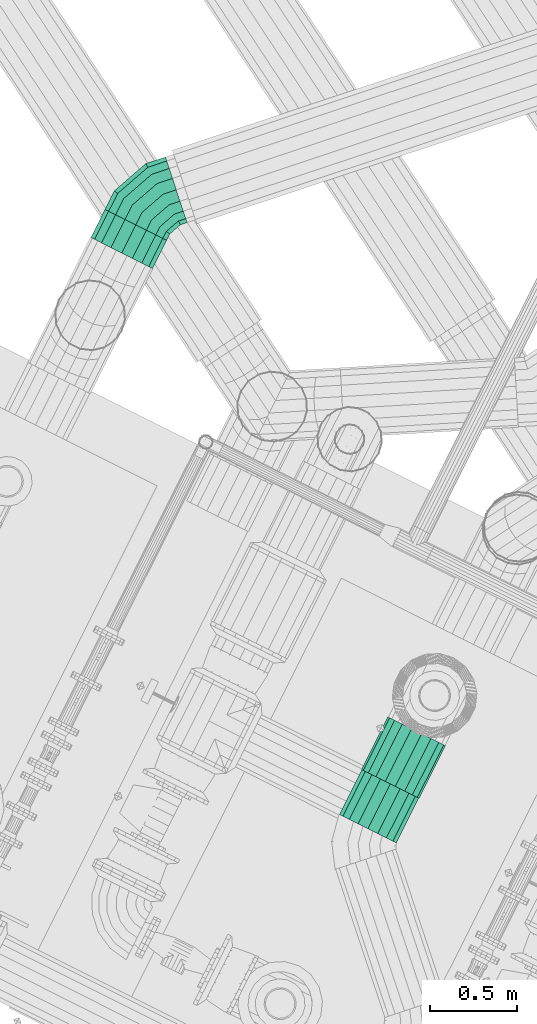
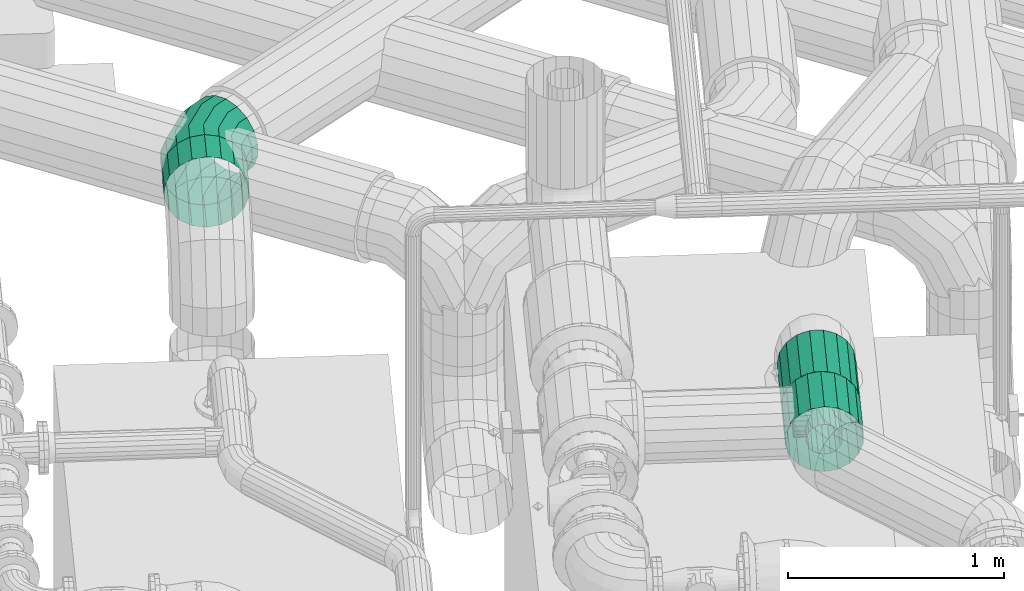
# One storey, part 124 of 206: 2 flow fittings, 2 flow segments.
"""IFC2X3 building model written with IfcOpenShell, lengths in metres."""

from ifc_helpers import new_model, si_unit, derived_unit, direction, frame, origin, place, context, subcontext, project, spatial, face_set, surface_model, source, transform, mapped, material, type_object, type_shapes, element, save


model = new_model("IFC2X3")

# Units and contexts
model_context = context("Model", 3, precision=5.2338327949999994e-05, world=origin(), true_north=direction((0.0, 1.0)))
body_context = subcontext(model_context, "Body", "Model", "MODEL_VIEW")
ifc_project = project(units=[si_unit("LENGTHUNIT", "METRE"), si_unit("AREAUNIT", "SQUARE_METRE"), si_unit("VOLUMEUNIT", "CUBIC_METRE"), si_unit("MASSUNIT", "GRAM", prefix="KILO"), si_unit("PLANEANGLEUNIT", "RADIAN"), derived_unit("THERMALTRANSMITTANCEUNIT", [(si_unit("MASSUNIT", "GRAM", prefix="KILO"), 1), (si_unit("THERMODYNAMICTEMPERATUREUNIT", "KELVIN"), -1), (si_unit("TIMEUNIT", "SECOND"), -3)])], contexts=[model_context])

# Site, building, storey
site_placement = place(None, frame((0.0, 0.0, 0.0), z_axis=(0.0, 0.0, 1.0), x_axis=(0.8939966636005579, -0.4480736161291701, 0.0)))
site = spatial("IfcSite", under=ifc_project, at=site_placement, Name="Default", CompositionType="ELEMENT")
building_placement = place(site_placement, origin())
building = spatial("IfcBuilding", under=site, at=building_placement, CompositionType="ELEMENT")
storey_placement = place(building_placement, origin())
storey = spatial("IfcBuildingStorey", under=building, at=storey_placement, Name="Erdgeschoss", CompositionType="ELEMENT", Elevation=0.0)

# Flow fitting
ifc_material_1 = material(Name="IfcSurfaceStyle #9317")
distribution_element_type_1 = type_object("IfcDistributionElementType", Name="Abzweigstück 317503:Abzweigstück 317503", material=ifc_material_1)
shared_shape_1 = source(origin(), body_context, "Body", "SurfaceModel", [
    surface_model("IfcFaceBasedSurfaceModel", [(24.17482169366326, 6.5159610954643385, 2.4381499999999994), (24.20360268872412, 6.5159610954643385, 2.433075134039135), (24.20360268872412, 6.801961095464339, 2.433075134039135), (24.17482169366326, 6.801961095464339, 2.4381499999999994), (24.228912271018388, 6.5159610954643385, 2.4184626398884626), (24.228912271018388, 6.801961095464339, 2.4184626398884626), (24.247697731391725, 6.5159610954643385, 2.396075), (24.247697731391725, 6.801961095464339, 2.396075), (24.257693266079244, 6.5159610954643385, 2.36861249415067), (24.257693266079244, 6.801961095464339, 2.36861249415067), (24.257693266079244, 6.5159610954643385, 2.339387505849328), (24.257693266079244, 6.801961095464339, 2.339387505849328), (24.247697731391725, 6.5159610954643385, 2.3119250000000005), (24.247697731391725, 6.801961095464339, 2.3119250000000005), (24.228912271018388, 6.5159610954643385, 2.28953736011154), (24.228912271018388, 6.801961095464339, 2.28953736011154), (24.20360268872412, 6.5159610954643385, 2.2749248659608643), (24.20360268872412, 6.801961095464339, 2.2749248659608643), (24.17482169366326, 6.515961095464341, 2.269849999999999), (24.17482169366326, 6.801961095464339, 2.269850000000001), (24.14604069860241, 6.5159610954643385, 2.2749248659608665), (24.14604069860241, 6.801961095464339, 2.2749248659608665), (24.120731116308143, 6.5159610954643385, 2.2895373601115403), (24.120731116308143, 6.801961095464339, 2.2895373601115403), (24.101945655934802, 6.5159610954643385, 2.3119249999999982), (24.101945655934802, 6.801961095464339, 2.3119249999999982), (24.091950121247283, 6.5159610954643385, 2.3393875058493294), (24.091950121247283, 6.801961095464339, 2.3393875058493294), (24.091950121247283, 6.5159610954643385, 2.3686124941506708), (24.091950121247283, 6.801961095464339, 2.3686124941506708), (24.101945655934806, 6.5159610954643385, 2.396075), (24.101945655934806, 6.801961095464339, 2.396075), (24.120731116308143, 6.5159610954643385, 2.4184626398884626), (24.120731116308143, 6.801961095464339, 2.4184626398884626), (24.146040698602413, 6.5159610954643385, 2.433075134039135), (24.146040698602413, 6.801961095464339, 2.433075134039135), (24.17482169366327, 6.5159610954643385, 2.538150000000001), (24.237804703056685, 6.5159610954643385, 2.52704439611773), (24.23780470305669, 6.801961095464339, 2.5270443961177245), (24.17482169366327, 6.801961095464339, 2.5381499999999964), (24.29319103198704, 6.5159610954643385, 2.49506708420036), (24.29319103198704, 6.801961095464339, 2.49506708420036), (24.334300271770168, 6.5159610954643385, 2.446074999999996), (24.334300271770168, 6.801961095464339, 2.446074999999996), (24.356174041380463, 6.5159610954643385, 2.3859773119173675), (24.356174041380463, 6.801961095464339, 2.3859773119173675), (24.356174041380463, 6.5159610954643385, 2.3220226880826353), (24.356174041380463, 6.801961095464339, 2.3220226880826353), (24.334300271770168, 6.5159610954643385, 2.261924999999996), (24.334300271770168, 6.801961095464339, 2.261924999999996), (24.29319103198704, 6.5159610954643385, 2.212932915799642), (24.29319103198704, 6.801961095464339, 2.212932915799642), (24.237804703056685, 6.5159610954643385, 2.1809556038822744), (24.237804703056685, 6.801961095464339, 2.1809556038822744), (24.17482169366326, 6.5159610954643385, 2.1698499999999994), (24.17482169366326, 6.801961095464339, 2.1698499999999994), (24.111838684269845, 6.5159610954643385, 2.1809556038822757), (24.111838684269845, 6.801961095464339, 2.1809556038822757), (24.056452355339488, 6.5159610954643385, 2.212932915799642), (24.056452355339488, 6.801961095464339, 2.212932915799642), (24.015343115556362, 6.5159610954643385, 2.261925), (24.015343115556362, 6.801961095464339, 2.261925), (23.993469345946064, 6.5159610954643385, 2.3220226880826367), (23.993469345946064, 6.801961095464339, 2.3220226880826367), (23.993469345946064, 6.5159610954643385, 2.385977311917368), (23.993469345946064, 6.801961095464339, 2.385977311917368), (24.015343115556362, 6.5159610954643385, 2.446075), (24.015343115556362, 6.801961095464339, 2.446075), (24.05645235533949, 6.5159610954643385, 2.4950670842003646), (24.05645235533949, 6.801961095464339, 2.4950670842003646), (24.11183868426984, 6.5159610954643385, 2.5270443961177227), (24.11183868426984, 6.801961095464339, 2.5270443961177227), (24.090671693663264, 6.728811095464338, 2.3540000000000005), (24.09413411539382, 6.724598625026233, 2.330109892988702), (24.037821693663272, 6.724598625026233, 2.3301098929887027), (24.037821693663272, 6.728811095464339, 2.3540000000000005), (24.103650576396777, 6.7124692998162, 2.3091012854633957), (24.03782169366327, 6.712469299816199, 2.3091012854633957), (24.116324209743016, 6.6938860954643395, 2.2935081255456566), (24.037821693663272, 6.6938860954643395, 2.293508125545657), (24.126351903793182, 6.671090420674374, 2.285211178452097), (24.03782169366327, 6.671090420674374, 2.2852111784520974), (24.126351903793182, 6.646831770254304, 2.285211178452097), (24.03782169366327, 6.646831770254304, 2.2852111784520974), (24.116324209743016, 6.624036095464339, 2.293508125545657), (24.037821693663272, 6.624036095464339, 2.2935081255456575), (24.103650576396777, 6.6054528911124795, 2.3091012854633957), (24.03782169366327, 6.6054528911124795, 2.309101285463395), (24.09413411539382, 6.593323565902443, 2.330109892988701), (24.037821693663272, 6.593323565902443, 2.330109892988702), (24.090671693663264, 6.5891110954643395, 2.3540000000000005), (24.037821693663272, 6.5891110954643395, 2.3540000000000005), (24.09413411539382, 6.593323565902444, 2.3778901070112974), (24.03782169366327, 6.593323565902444, 2.3778901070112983), (24.103650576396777, 6.6054528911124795, 2.398898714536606), (24.03782169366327, 6.6054528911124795, 2.3988987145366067), (24.116324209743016, 6.624036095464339, 2.414491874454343), (24.03782169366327, 6.624036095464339, 2.4144918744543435), (24.126351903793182, 6.646831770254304, 2.422788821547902), (24.03782169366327, 6.646831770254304, 2.422788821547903), (24.126351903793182, 6.671090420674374, 2.4227888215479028), (24.03782169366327, 6.671090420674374, 2.4227888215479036), (24.116324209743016, 6.6938860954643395, 2.4144918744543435), (24.03782169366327, 6.6938860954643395, 2.414491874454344), (24.103650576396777, 6.7124692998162, 2.398898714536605), (24.03782169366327, 6.7124692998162, 2.398898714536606), (24.09413411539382, 6.724598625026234, 2.3778901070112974), (24.03782169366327, 6.724598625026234, 2.3778901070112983)], [face_set([[[0, 1, 2, 3]], [[1, 4, 5, 2]], [[4, 6, 7, 5]], [[6, 8, 9, 7]], [[8, 10, 11, 9]], [[10, 12, 13, 11]], [[12, 14, 15, 13]], [[14, 16, 17, 15]], [[16, 18, 19, 17]], [[18, 20, 21, 19]], [[20, 22, 23, 21]], [[22, 24, 25, 23]], [[24, 26, 27, 25]], [[26, 28, 29, 27]], [[28, 30, 31, 29]], [[30, 32, 33, 31]], [[32, 34, 35, 33]], [[34, 0, 3, 35]], [[36, 37, 38, 39]], [[37, 40, 41, 38]], [[40, 42, 43, 41]], [[42, 44, 45, 43]], [[44, 46, 47, 45]], [[46, 48, 49, 47]], [[48, 50, 51, 49]], [[50, 52, 53, 51]], [[52, 54, 55, 53]], [[54, 56, 57, 55]], [[56, 58, 59, 57]], [[58, 60, 61, 59]], [[60, 62, 63, 61]], [[62, 64, 65, 63]], [[64, 66, 67, 65]], [[66, 68, 69, 67]], [[68, 70, 71, 69]], [[70, 36, 39, 71]], [[72, 73, 74, 75]], [[73, 76, 77, 74]], [[76, 78, 79, 77]], [[78, 80, 81, 79]], [[80, 82, 83, 81]], [[82, 84, 85, 83]], [[84, 86, 87, 85]], [[86, 88, 89, 87]], [[88, 90, 91, 89]], [[90, 92, 93, 91]], [[92, 94, 95, 93]], [[94, 96, 97, 95]], [[96, 98, 99, 97]], [[98, 100, 101, 99]], [[100, 102, 103, 101]], [[102, 104, 105, 103]], [[104, 106, 107, 105]], [[106, 72, 75, 107]]])]),
])
type_shapes(distribution_element_type_1, [shared_shape_1])
flow_fitting_1_placement = place(storey_placement, origin())
element("IfcFlowFitting", 1, at=flow_fitting_1_placement, inside=storey, type_object=distribution_element_type_1, material=ifc_material_1, Name="Abzweigstück", ObjectType="Abzweigstück", context=body_context, shape_type="MappedRepresentation", body=[
    mapped(shared_shape_1, transform((0.0, 0.0, 0.0), scale=1.0)),
])

# Flow segment
distribution_element_type_2 = type_object("IfcDistributionElementType", Name="Stahlrohr nach DIN 2448 317526:Stahlrohr nach DIN 2448 317526", material=ifc_material_1)
shared_shape_2 = source(origin(), body_context, "Body", "SurfaceModel", [
    surface_model("IfcFaceBasedSurfaceModel", [(24.25897169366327, 7.138307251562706, 2.353999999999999), (24.2538968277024, 7.138307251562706, 2.382780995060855), (24.253896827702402, 6.80196109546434, 2.3827809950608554), (24.25897169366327, 6.80196109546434, 2.3540000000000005), (24.23928433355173, 7.138307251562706, 2.4080905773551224), (24.239284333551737, 6.80196109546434, 2.408090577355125), (24.216896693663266, 7.138307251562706, 2.4268760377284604), (24.216896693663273, 6.80196109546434, 2.426876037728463), (24.189434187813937, 7.138307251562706, 2.4368715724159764), (24.18943418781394, 6.80196109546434, 2.436871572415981), (24.160209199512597, 7.138307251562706, 2.4368715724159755), (24.1602091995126, 6.80196109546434, 2.4368715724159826), (24.132746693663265, 7.138307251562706, 2.426876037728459), (24.132746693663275, 6.80196109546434, 2.426876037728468), (24.110359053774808, 7.138307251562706, 2.4080905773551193), (24.110359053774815, 6.80196109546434, 2.408090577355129), (24.09574655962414, 7.138307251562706, 2.382780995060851), (24.095746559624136, 6.80196109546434, 2.3827809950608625), (24.090671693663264, 7.138307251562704, 2.353999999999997), (24.090671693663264, 6.801961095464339, 2.354000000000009), (24.095746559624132, 7.138307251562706, 2.3252190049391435), (24.095746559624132, 6.801961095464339, 2.3252190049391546), (24.110359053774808, 7.138307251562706, 2.2999094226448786), (24.1103590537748, 6.80196109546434, 2.2999094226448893), (24.132746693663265, 7.138307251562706, 2.2811239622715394), (24.13274669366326, 6.80196109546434, 2.281123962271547), (24.160209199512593, 7.138307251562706, 2.271128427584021), (24.160209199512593, 6.80196109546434, 2.2711284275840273), (24.189434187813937, 7.138307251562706, 2.271128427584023), (24.189434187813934, 6.80196109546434, 2.271128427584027), (24.216896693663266, 7.138307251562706, 2.2811239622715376), (24.21689669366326, 6.80196109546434, 2.2811239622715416), (24.23928433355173, 7.138307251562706, 2.299909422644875), (24.239284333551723, 6.80196109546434, 2.2999094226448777), (24.2538968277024, 7.138307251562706, 2.3252190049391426), (24.2538968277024, 6.80196109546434, 2.325219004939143), (24.358971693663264, 7.138307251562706, 2.3539999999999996), (24.347866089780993, 7.138307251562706, 2.4169830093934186), (24.347866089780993, 6.80196109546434, 2.4169830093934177), (24.358971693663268, 6.80196109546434, 2.3539999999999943), (24.315888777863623, 7.138307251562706, 2.4723693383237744), (24.31588877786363, 6.80196109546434, 2.4723693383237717), (24.266896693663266, 7.138307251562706, 2.5134785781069), (24.26689669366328, 6.80196109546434, 2.513478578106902), (24.206799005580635, 7.138307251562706, 2.5353523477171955), (24.206799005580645, 6.80196109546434, 2.535352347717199), (24.142844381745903, 7.138307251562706, 2.5353523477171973), (24.14284438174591, 6.80196109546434, 2.535352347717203), (24.082746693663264, 7.138307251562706, 2.513478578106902), (24.082746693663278, 6.80196109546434, 2.5134785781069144), (24.033754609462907, 7.138307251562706, 2.472369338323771), (24.033754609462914, 6.80196109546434, 2.4723693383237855), (24.00177729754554, 7.138307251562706, 2.4169830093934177), (24.00177729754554, 6.80196109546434, 2.416983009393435), (23.990671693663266, 7.138307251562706, 2.3539999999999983), (23.990671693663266, 6.80196109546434, 2.3540000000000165), (24.001777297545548, 7.138307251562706, 2.291016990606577), (24.001777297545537, 6.80196109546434, 2.2910169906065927), (24.033754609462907, 7.138307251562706, 2.235630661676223), (24.033754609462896, 6.80196109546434, 2.235630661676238), (24.082746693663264, 7.138307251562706, 2.194521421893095), (24.082746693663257, 6.80196109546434, 2.194521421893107), (24.142844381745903, 7.138307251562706, 2.172647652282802), (24.14284438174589, 6.80196109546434, 2.17264765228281), (24.206799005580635, 7.138307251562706, 2.1726476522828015), (24.206799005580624, 6.80196109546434, 2.1726476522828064), (24.266896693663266, 7.138307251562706, 2.1945214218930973), (24.266896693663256, 6.80196109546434, 2.1945214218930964), (24.31588877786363, 7.138307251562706, 2.235630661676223), (24.31588877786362, 6.80196109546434, 2.2356306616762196), (24.34786608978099, 7.138307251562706, 2.2910169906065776), (24.34786608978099, 6.80196109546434, 2.291016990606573)], [face_set([[[0, 1, 2, 3]], [[1, 4, 5, 2]], [[4, 6, 7, 5]], [[6, 8, 9, 7]], [[8, 10, 11, 9]], [[10, 12, 13, 11]], [[12, 14, 15, 13]], [[14, 16, 17, 15]], [[16, 18, 19, 17]], [[18, 20, 21, 19]], [[20, 22, 23, 21]], [[22, 24, 25, 23]], [[24, 26, 27, 25]], [[26, 28, 29, 27]], [[28, 30, 31, 29]], [[30, 32, 33, 31]], [[32, 34, 35, 33]], [[34, 0, 3, 35]], [[36, 37, 38, 39]], [[37, 40, 41, 38]], [[40, 42, 43, 41]], [[42, 44, 45, 43]], [[44, 46, 47, 45]], [[46, 48, 49, 47]], [[48, 50, 51, 49]], [[50, 52, 53, 51]], [[52, 54, 55, 53]], [[54, 56, 57, 55]], [[56, 58, 59, 57]], [[58, 60, 61, 59]], [[60, 62, 63, 61]], [[62, 64, 65, 63]], [[64, 66, 67, 65]], [[66, 68, 69, 67]], [[68, 70, 71, 69]], [[70, 36, 39, 71]]])]),
])
type_shapes(distribution_element_type_2, [shared_shape_2])
flow_segment_1_placement = place(storey_placement, origin())
element("IfcFlowSegment", 2, at=flow_segment_1_placement, inside=storey, type_object=distribution_element_type_2, material=ifc_material_1, Name="Stahlrohr nach DIN 2448", ObjectType="Stahlrohr nach DIN 2448", context=body_context, shape_type="MappedRepresentation", body=[
    mapped(shared_shape_2, transform((0.0, 0.0, 0.0), scale=1.0)),
])

# Flow fitting
ifc_material_2 = material(Name="IfcSurfaceStyle #251447")
distribution_element_type_3 = type_object("IfcDistributionElementType", Name="Segmentbogen 3 teilig 620877:Segmentbogen 3 teilig 620877", material=ifc_material_2)
shared_shape_3 = source(origin(), body_context, "Body", "SurfaceModel", [
    surface_model("IfcFaceBasedSurfaceModel", [(21.44094787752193, 9.00820839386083, 2.4500000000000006), (21.50935190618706, 9.00820839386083, 2.4379385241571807), (21.50935190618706, 9.074166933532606, 2.4379385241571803), (21.44094787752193, 9.087773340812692, 2.4499999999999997), (21.569505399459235, 9.008208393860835, 2.4032088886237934), (21.569505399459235, 9.062201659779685, 2.403208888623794), (21.61415295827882, 9.00820839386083, 2.3499999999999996), (21.614152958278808, 9.053320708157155, 2.3500000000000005), (21.637909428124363, 9.008208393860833, 2.2847296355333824), (21.637909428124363, 9.048595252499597, 2.2847296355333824), (21.637909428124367, 9.008208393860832, 2.215270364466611), (21.637909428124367, 9.048595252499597, 2.215270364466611), (21.61415295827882, 9.00820839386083, 2.149999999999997), (21.614152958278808, 9.053320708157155, 2.1499999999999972), (21.569505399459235, 9.008208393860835, 2.0967911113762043), (21.56950539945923, 9.062201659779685, 2.0967911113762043), (21.50935190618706, 9.00820839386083, 2.0620614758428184), (21.50935190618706, 9.074166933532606, 2.0620614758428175), (21.44094787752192, 9.00820839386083, 2.05), (21.440947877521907, 9.087773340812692, 2.050000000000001), (21.37254384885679, 9.00820839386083, 2.062061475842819), (21.372543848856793, 9.101379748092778, 2.0620614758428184), (21.31239035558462, 9.008208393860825, 2.096791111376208), (21.31239035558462, 9.113345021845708, 2.0967911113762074), (21.26774279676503, 9.008208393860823, 2.1500000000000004), (21.267742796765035, 9.122225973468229, 2.15), (21.243986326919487, 9.00820839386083, 2.2152703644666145), (21.243986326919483, 9.126951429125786, 2.2152703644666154), (21.243986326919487, 9.00820839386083, 2.2847296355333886), (21.243986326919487, 9.126951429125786, 2.284729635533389), (21.267742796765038, 9.008208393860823, 2.35), (21.267742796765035, 9.122225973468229, 2.35), (21.312390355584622, 9.008208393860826, 2.403208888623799), (21.31239035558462, 9.113345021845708, 2.403208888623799), (21.372543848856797, 9.00820839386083, 2.4379385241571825), (21.372543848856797, 9.101379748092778, 2.437938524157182), (21.55983438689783, 9.19604242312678, 2.4379385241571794), (21.501844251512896, 9.234790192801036, 2.4499999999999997), (21.610830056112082, 9.161968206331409, 2.4032088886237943), (21.648680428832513, 9.13667739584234, 2.3499999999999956), (21.668820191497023, 9.123220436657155, 2.284729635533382), (21.66882019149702, 9.123220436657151, 2.2152703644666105), (21.648680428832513, 9.136677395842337, 2.1499999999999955), (21.610830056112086, 9.161968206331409, 2.0967911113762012), (21.559834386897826, 9.19604242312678, 2.062061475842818), (21.501844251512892, 9.234790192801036, 2.0500000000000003), (21.44385411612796, 9.273537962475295, 2.062061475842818), (21.392858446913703, 9.307612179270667, 2.0967911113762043), (21.35500807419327, 9.332902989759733, 2.1500000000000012), (21.33486831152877, 9.346359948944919, 2.2152703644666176), (21.334868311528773, 9.34635994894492, 2.2847296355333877), (21.35500807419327, 9.332902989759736, 2.350000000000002), (21.392858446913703, 9.307612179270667, 2.4032088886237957), (21.443854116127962, 9.273537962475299, 2.4379385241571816), (21.6064741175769, 9.242682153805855, 2.43793852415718), (21.55810516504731, 9.291051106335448, 2.4499999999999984), (21.64900906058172, 9.200147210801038, 2.4032088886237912), (21.680579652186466, 9.168576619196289, 2.3499999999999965), (21.697378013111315, 9.151778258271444, 2.284729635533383), (21.69737801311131, 9.151778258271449, 2.21527036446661), (21.680579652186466, 9.16857661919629, 2.149999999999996), (21.649009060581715, 9.200147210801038, 2.0967911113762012), (21.606474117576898, 9.242682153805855, 2.0620614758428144), (21.5581051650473, 9.291051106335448, 2.049999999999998), (21.509736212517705, 9.339420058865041, 2.0620614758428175), (21.46720126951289, 9.381955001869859, 2.096791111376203), (21.435630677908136, 9.413525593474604, 2.1500000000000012), (21.418832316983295, 9.430323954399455, 2.2152703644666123), (21.41883231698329, 9.430323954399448, 2.284729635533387), (21.435630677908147, 9.413525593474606, 2.3499999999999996), (21.4672012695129, 9.381955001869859, 2.4032088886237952), (21.509736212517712, 9.339420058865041, 2.4379385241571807)], [face_set([[[0, 1, 2, 3]], [[1, 4, 5, 2]], [[4, 6, 7, 5]], [[6, 8, 9, 7]], [[8, 10, 11, 9]], [[10, 12, 13, 11]], [[12, 14, 15, 13]], [[14, 16, 17, 15]], [[16, 18, 19, 17]], [[18, 20, 21, 19]], [[20, 22, 23, 21]], [[22, 24, 25, 23]], [[24, 26, 27, 25]], [[26, 28, 29, 27]], [[28, 30, 31, 29]], [[30, 32, 33, 31]], [[32, 34, 35, 33]], [[34, 0, 3, 35]], [[3, 2, 36, 37]], [[2, 5, 38, 36]], [[5, 7, 39, 38]], [[7, 9, 40, 39]], [[9, 11, 41, 40]], [[11, 13, 42, 41]], [[13, 15, 43, 42]], [[15, 17, 44, 43]], [[17, 19, 45, 44]], [[19, 21, 46, 45]], [[21, 23, 47, 46]], [[23, 25, 48, 47]], [[25, 27, 49, 48]], [[27, 29, 50, 49]], [[29, 31, 51, 50]], [[31, 33, 52, 51]], [[33, 35, 53, 52]], [[35, 3, 37, 53]], [[37, 36, 54, 55]], [[36, 38, 56, 54]], [[38, 39, 57, 56]], [[39, 40, 58, 57]], [[40, 41, 59, 58]], [[41, 42, 60, 59]], [[42, 43, 61, 60]], [[43, 44, 62, 61]], [[44, 45, 63, 62]], [[45, 46, 64, 63]], [[46, 47, 65, 64]], [[47, 48, 66, 65]], [[48, 49, 67, 66]], [[49, 50, 68, 67]], [[50, 51, 69, 68]], [[51, 52, 70, 69]], [[52, 53, 71, 70]], [[53, 37, 55, 71]]])]),
])
type_shapes(distribution_element_type_3, [shared_shape_3])
flow_fitting_2_placement = place(storey_placement, origin())
element("IfcFlowFitting", 3, at=flow_fitting_2_placement, inside=storey, type_object=distribution_element_type_3, material=ifc_material_2, Name="Segmentbogen 3 teilig", ObjectType="Segmentbogen 3 teilig", context=body_context, shape_type="MappedRepresentation", body=[
    mapped(shared_shape_3, transform((0.0, 0.0, 0.0), scale=1.0)),
])

# Flow segment
distribution_element_type_4 = type_object("IfcDistributionElementType", Name="Muffe 621744:Muffe 621744", material=ifc_material_2)
shared_shape_4 = source(origin(), body_context, "Body", "SurfaceModel", [
    surface_model("IfcFaceBasedSurfaceModel", [(21.44094787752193, 9.008208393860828, 2.0500000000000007), (21.50935190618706, 9.008208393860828, 2.0620614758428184), (21.50935190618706, 8.828208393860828, 2.0620614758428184), (21.44094787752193, 8.828208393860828, 2.0500000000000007), (21.56950539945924, 9.008208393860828, 2.0967911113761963), (21.56950539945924, 8.828208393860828, 2.096791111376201), (21.614152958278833, 9.008208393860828, 2.1499999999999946), (21.614152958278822, 8.828208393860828, 2.1499999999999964), (21.63790942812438, 9.008208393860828, 2.215270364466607), (21.63790942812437, 8.828208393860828, 2.2152703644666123), (21.63790942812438, 9.008208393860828, 2.2847296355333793), (21.637909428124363, 8.828208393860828, 2.284729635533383), (21.614152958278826, 9.008208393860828, 2.3499999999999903), (21.614152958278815, 8.828208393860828, 2.3499999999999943), (21.56950539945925, 9.008208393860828, 2.40320888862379), (21.569505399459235, 8.828208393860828, 2.403208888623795), (21.50935190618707, 9.008208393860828, 2.4379385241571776), (21.50935190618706, 8.828208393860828, 2.43793852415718), (21.44094787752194, 9.008208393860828, 2.4500000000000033), (21.44094787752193, 8.828208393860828, 2.45), (21.372543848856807, 9.008208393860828, 2.437938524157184), (21.372543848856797, 8.828208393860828, 2.437938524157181), (21.312390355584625, 9.008208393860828, 2.4032088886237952), (21.31239035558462, 8.828208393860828, 2.4032088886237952), (21.267742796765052, 9.008208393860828, 2.350000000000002), (21.267742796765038, 8.828208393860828, 2.3499999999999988), (21.243986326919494, 9.008208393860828, 2.2847296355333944), (21.243986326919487, 8.828208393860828, 2.2847296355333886), (21.24398632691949, 9.008208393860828, 2.2152703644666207), (21.243986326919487, 8.828208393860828, 2.215270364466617), (21.26774279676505, 9.008208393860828, 2.1500000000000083), (21.267742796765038, 8.828208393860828, 2.1500000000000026), (21.312390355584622, 9.008208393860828, 2.096791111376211), (21.31239035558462, 8.828208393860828, 2.096791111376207), (21.372543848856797, 9.008208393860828, 2.062061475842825), (21.372543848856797, 8.828208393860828, 2.06206147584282)], [face_set([[[0, 1, 2, 3]], [[1, 4, 5, 2]], [[4, 6, 7, 5]], [[6, 8, 9, 7]], [[8, 10, 11, 9]], [[10, 12, 13, 11]], [[12, 14, 15, 13]], [[14, 16, 17, 15]], [[16, 18, 19, 17]], [[18, 20, 21, 19]], [[20, 22, 23, 21]], [[22, 24, 25, 23]], [[24, 26, 27, 25]], [[26, 28, 29, 27]], [[28, 30, 31, 29]], [[30, 32, 33, 31]], [[32, 34, 35, 33]], [[34, 0, 3, 35]]])]),
])
type_shapes(distribution_element_type_4, [shared_shape_4])
flow_segment_2_placement = place(storey_placement, origin())
element("IfcFlowSegment", 4, at=flow_segment_2_placement, inside=storey, type_object=distribution_element_type_4, material=ifc_material_2, Name="Muffe", ObjectType="Muffe", context=body_context, shape_type="MappedRepresentation", body=[
    mapped(shared_shape_4, transform((0.0, 0.0, 0.0), scale=1.0)),
])

save(model, "model.ifc")
